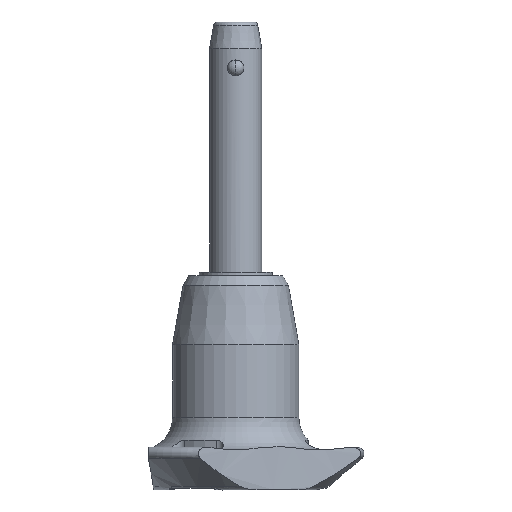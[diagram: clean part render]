
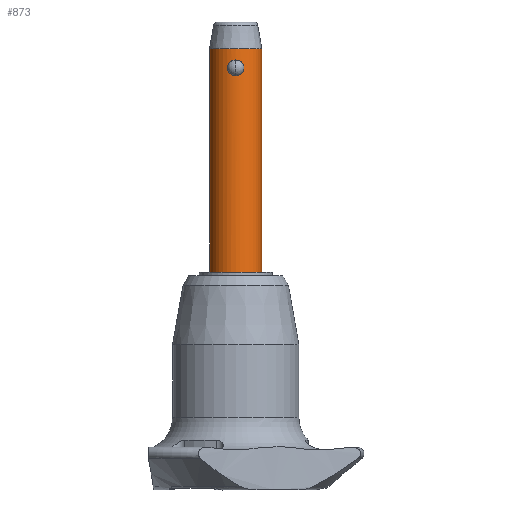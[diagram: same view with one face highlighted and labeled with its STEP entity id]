
A CAD part, front view. The second image highlights one B-rep face of the part: STEP entity #873.
In plain terms, the highlighted cylindrical face has radius 4 mm (diameter 8 mm), a partial arc.
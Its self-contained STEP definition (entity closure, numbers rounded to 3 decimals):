
#11 = CARTESIAN_POINT ( 'NONE',  ( -0.326, -3.99, 0.029 ) ) ;
#31 = VERTEX_POINT ( 'NONE', #1948 ) ;
#48 = CARTESIAN_POINT ( 'NONE',  ( 1.224, -3.808, 1.52 ) ) ;
#73 = CARTESIAN_POINT ( 'NONE',  ( 1.101, -3.846, 1.82 ) ) ;
#96 = CARTESIAN_POINT ( 'NONE',  ( 0.162, -4., 0. ) ) ;
#117 = CARTESIAN_POINT ( 'NONE',  ( 4., 0., -30. ) ) ;
#122 = CARTESIAN_POINT ( 'NONE',  ( -1.133, -3.836, 1.747 ) ) ;
#135 = CARTESIAN_POINT ( 'NONE',  ( -0.625, -3.951, 2.25 ) ) ;
#254 = ORIENTED_EDGE ( 'NONE', *, *, #2237, .F. ) ;
#261 = LINE ( 'NONE', #286, #281 ) ;
#268 = CARTESIAN_POINT ( 'NONE',  ( 1.199, -3.816, 1.599 ) ) ;
#270 = FACE_BOUND ( 'NONE', #1826, .T. ) ;
#278 = AXIS2_PLACEMENT_3D ( 'NONE', #704, #1782, #2441 ) ;
#279 = CARTESIAN_POINT ( 'NONE',  ( 0.164, -4., 2.4 ) ) ;
#281 = VECTOR ( 'NONE', #1992, 1000. ) ;
#286 = CARTESIAN_POINT ( 'NONE',  ( -4., 0., -30. ) ) ;
#428 = CARTESIAN_POINT ( 'NONE',  ( -0.628, -3.953, 0.143 ) ) ;
#465 = CARTESIAN_POINT ( 'NONE',  ( 0., 0., 4.1 ) ) ;
#474 = CARTESIAN_POINT ( 'NONE',  ( 0.627, -3.953, 0.143 ) ) ;
#487 = CARTESIAN_POINT ( 'NONE',  ( 0.944, -3.887, 0.391 ) ) ;
#518 = DIRECTION ( 'NONE',  ( 0., 0., -1. ) ) ;
#550 = ORIENTED_EDGE ( 'NONE', *, *, #1445, .F. ) ;
#551 = CARTESIAN_POINT ( 'NONE',  ( -1.101, -3.846, 0.579 ) ) ;
#694 = ORIENTED_EDGE ( 'NONE', *, *, #2039, .T. ) ;
#702 = CARTESIAN_POINT ( 'NONE',  ( 0., -4., 0. ) ) ;
#704 = CARTESIAN_POINT ( 'NONE',  ( 0., 0., -30. ) ) ;
#734 = CARTESIAN_POINT ( 'NONE',  ( 0., 0., -30. ) ) ;
#751 = CARTESIAN_POINT ( 'NONE',  ( -1.224, -3.808, 0.879 ) ) ;
#767 = VERTEX_POINT ( 'NONE', #1081 ) ;
#820 = CARTESIAN_POINT ( 'NONE',  ( -0.768, -3.927, 0.228 ) ) ;
#873 = ADVANCED_FACE ( 'NONE', ( #1145, #270 ), #1531, .T. ) ;
#877 = CARTESIAN_POINT ( 'NONE',  ( 0.326, -3.99, 2.371 ) ) ;
#906 = CARTESIAN_POINT ( 'NONE',  ( 0., -4., 2.4 ) ) ;
#928 = CARTESIAN_POINT ( 'NONE',  ( 0., -4., 0. ) ) ;
#948 = VERTEX_POINT ( 'NONE', #117 ) ;
#967 = CARTESIAN_POINT ( 'NONE',  ( -0.762, -3.927, 2.166 ) ) ;
#1050 = DIRECTION ( 'NONE',  ( 1., 0., 0. ) ) ;
#1057 = B_SPLINE_CURVE_WITH_KNOTS ( 'NONE', 3,
 ( #702, #96, #2399, #474, #1142, #487, #2613, #1330, #1528, #2193, #1984, #2410, #1779, #48, #268, #73, #2182, #2640, #1318, #877, #279, #906 ),
 .UNSPECIFIED., .F., .F.,
 ( 4, 2, 2, 2, 2, 2, 2, 2, 2, 2, 4 ),
 ( 0.004, 0.004, 0.005, 0.005, 0.005, 0.006, 0.006, 0.006, 0.007, 0.007, 0.008 ),
 .UNSPECIFIED. ) ;
#1081 = CARTESIAN_POINT ( 'NONE',  ( 4., 0., 4.1 ) ) ;
#1103 = CARTESIAN_POINT ( 'NONE',  ( -0.553, -3.962, 2.285 ) ) ;
#1142 = CARTESIAN_POINT ( 'NONE',  ( 0.768, -3.927, 0.228 ) ) ;
#1145 = FACE_OUTER_BOUND ( 'NONE', #2439, .T. ) ;
#1209 = CIRCLE ( 'NONE', #1521, 4. ) ;
#1225 = EDGE_CURVE ( 'NONE', #2195, #2621, #1489, .T. ) ;
#1250 = CARTESIAN_POINT ( 'NONE',  ( -4., 0., 4.1 ) ) ;
#1318 = CARTESIAN_POINT ( 'NONE',  ( 0.629, -3.953, 2.256 ) ) ;
#1330 = CARTESIAN_POINT ( 'NONE',  ( 1.092, -3.848, 0.582 ) ) ;
#1377 = CARTESIAN_POINT ( 'NONE',  ( 0., -4., 2.4 ) ) ;
#1409 = ORIENTED_EDGE ( 'NONE', *, *, #1858, .T. ) ;
#1445 = EDGE_CURVE ( 'NONE', #31, #1833, #261, .T. ) ;
#1472 = DIRECTION ( 'NONE',  ( 0., 0., -1. ) ) ;
#1489 = B_SPLINE_CURVE_WITH_KNOTS ( 'NONE', 3,
 ( #1377, #2647, #2385, #1103, #135, #967, #2243, #2460, #2677, #1966, #122, #2600, #1540, #1816, #2398, #751, #1600, #551, #1616, #820, #428, #11, #1691, #2092 ),
 .UNSPECIFIED., .F., .F.,
 ( 4, 2, 2, 2, 2, 2, 2, 2, 2, 2, 2, 4 ),
 ( 0., 0., 0.001, 0.001, 0.001, 0.001, 0.002, 0.002, 0.002, 0.003, 0.003, 0.004 ),
 .UNSPECIFIED. ) ;
#1521 = AXIS2_PLACEMENT_3D ( 'NONE', #465, #1472, #1050 ) ;
#1528 = CARTESIAN_POINT ( 'NONE',  ( 1.132, -3.836, 0.651 ) ) ;
#1531 = CYLINDRICAL_SURFACE ( 'NONE', #278, 4. ) ;
#1540 = CARTESIAN_POINT ( 'NONE',  ( -1.266, -3.794, 1.364 ) ) ;
#1600 = CARTESIAN_POINT ( 'NONE',  ( -1.199, -3.816, 0.802 ) ) ;
#1616 = CARTESIAN_POINT ( 'NONE',  ( -1.005, -3.874, 0.447 ) ) ;
#1624 = LINE ( 'NONE', #2451, #1980 ) ;
#1691 = CARTESIAN_POINT ( 'NONE',  ( -0.162, -4., 0. ) ) ;
#1723 = ORIENTED_EDGE ( 'NONE', *, *, #1988, .F. ) ;
#1779 = CARTESIAN_POINT ( 'NONE',  ( 1.258, -3.797, 1.361 ) ) ;
#1782 = DIRECTION ( 'NONE',  ( 0., 0., 1. ) ) ;
#1816 = CARTESIAN_POINT ( 'NONE',  ( -1.266, -3.794, 1.12 ) ) ;
#1826 = EDGE_LOOP ( 'NONE', ( #2394, #254 ) ) ;
#1833 = VERTEX_POINT ( 'NONE', #1250 ) ;
#1858 = EDGE_CURVE ( 'NONE', #767, #1833, #1209, .T. ) ;
#1948 = CARTESIAN_POINT ( 'NONE',  ( -4., 0., -30. ) ) ;
#1966 = CARTESIAN_POINT ( 'NONE',  ( -1.092, -3.848, 1.818 ) ) ;
#1980 = VECTOR ( 'NONE', #2482, 1000. ) ;
#1984 = CARTESIAN_POINT ( 'NONE',  ( 1.266, -3.794, 1.035 ) ) ;
#1988 = EDGE_CURVE ( 'NONE', #948, #31, #2376, .T. ) ;
#1992 = DIRECTION ( 'NONE',  ( 0., 0., 1. ) ) ;
#2026 = AXIS2_PLACEMENT_3D ( 'NONE', #734, #518, #2625 ) ;
#2039 = EDGE_CURVE ( 'NONE', #948, #767, #1624, .T. ) ;
#2092 = CARTESIAN_POINT ( 'NONE',  ( 0., -4., 0. ) ) ;
#2147 = CARTESIAN_POINT ( 'NONE',  ( 0., -4., 2.4 ) ) ;
#2182 = CARTESIAN_POINT ( 'NONE',  ( 1.005, -3.874, 1.953 ) ) ;
#2193 = CARTESIAN_POINT ( 'NONE',  ( 1.231, -3.806, 0.873 ) ) ;
#2195 = VERTEX_POINT ( 'NONE', #2147 ) ;
#2237 = EDGE_CURVE ( 'NONE', #2621, #2195, #1057, .T. ) ;
#2243 = CARTESIAN_POINT ( 'NONE',  ( -0.827, -3.914, 2.117 ) ) ;
#2376 = CIRCLE ( 'NONE', #2026, 4. ) ;
#2385 = CARTESIAN_POINT ( 'NONE',  ( -0.325, -3.99, 2.371 ) ) ;
#2394 = ORIENTED_EDGE ( 'NONE', *, *, #1225, .F. ) ;
#2398 = CARTESIAN_POINT ( 'NONE',  ( -1.258, -3.797, 1.038 ) ) ;
#2399 = CARTESIAN_POINT ( 'NONE',  ( 0.326, -3.99, 0.029 ) ) ;
#2410 = CARTESIAN_POINT ( 'NONE',  ( 1.266, -3.794, 1.281 ) ) ;
#2439 = EDGE_LOOP ( 'NONE', ( #550, #1723, #694, #1409 ) ) ;
#2441 = DIRECTION ( 'NONE',  ( 1., 0., 0. ) ) ;
#2451 = CARTESIAN_POINT ( 'NONE',  ( 4., 0., -30. ) ) ;
#2460 = CARTESIAN_POINT ( 'NONE',  ( -0.945, -3.887, 2.008 ) ) ;
#2482 = DIRECTION ( 'NONE',  ( 0., 0., 1. ) ) ;
#2600 = CARTESIAN_POINT ( 'NONE',  ( -1.231, -3.806, 1.527 ) ) ;
#2613 = CARTESIAN_POINT ( 'NONE',  ( 0.999, -3.874, 0.452 ) ) ;
#2621 = VERTEX_POINT ( 'NONE', #928 ) ;
#2625 = DIRECTION ( 'NONE',  ( 1., 0., 0. ) ) ;
#2640 = CARTESIAN_POINT ( 'NONE',  ( 0.769, -3.927, 2.171 ) ) ;
#2647 = CARTESIAN_POINT ( 'NONE',  ( -0.164, -4., 2.4 ) ) ;
#2677 = CARTESIAN_POINT ( 'NONE',  ( -0.998, -3.874, 1.949 ) ) ;
